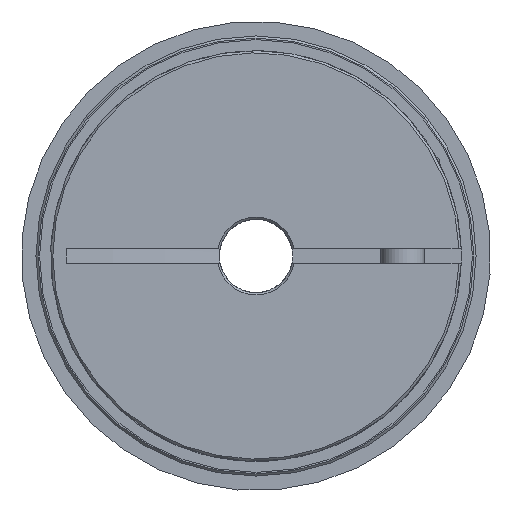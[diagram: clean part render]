
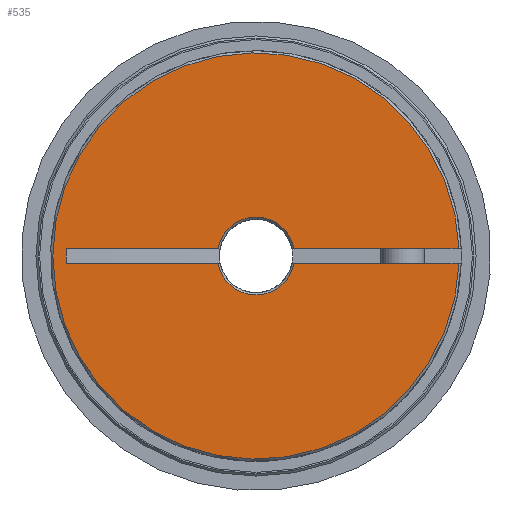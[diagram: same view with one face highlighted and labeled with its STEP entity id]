
A CAD part, left-side view. The second image highlights one B-rep face of the part: STEP entity #535.
In plain terms, the highlighted planar face has unit normal (-1, 0, 0) as drawn and (0, 0, 1) by its records, which use the part's own axes.
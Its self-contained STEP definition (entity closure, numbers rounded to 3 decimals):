
#535 = ADVANCED_FACE( 'NONE', ( #1085 ), #1086, .T. );
#1085 = FACE_OUTER_BOUND( '', #1816, .T. );
#1086 = PLANE( '', #1817 );
#1816 = EDGE_LOOP( '', ( #2730, #2731, #2732, #2733, #2734, #2735, #2736, #2737 ) );
#1817 = AXIS2_PLACEMENT_3D( '', #2738, #2739, #2740 );
#2730 = ORIENTED_EDGE( '', *, *, #3898, .F. );
#2731 = ORIENTED_EDGE( '', *, *, #3806, .T. );
#2732 = ORIENTED_EDGE( '', *, *, #3757, .T. );
#2733 = ORIENTED_EDGE( '', *, *, #3899, .T. );
#2734 = ORIENTED_EDGE( '', *, *, #3900, .T. );
#2735 = ORIENTED_EDGE( '', *, *, #3844, .F. );
#2736 = ORIENTED_EDGE( '', *, *, #3802, .F. );
#2737 = ORIENTED_EDGE( '', *, *, #3834, .T. );
#2738 = CARTESIAN_POINT( '', ( 0., 0., 24.5 ) );
#2739 = DIRECTION( '', ( 0., 0., 1. ) );
#2740 = DIRECTION( '', ( 1., 0., 0. ) );
#3757 = EDGE_CURVE( 'NONE', #4295, #4296, #4297, .T. );
#3802 = EDGE_CURVE( 'NONE', #4372, #4374, #4375, .F. );
#3806 = EDGE_CURVE( 'NONE', #4380, #4295, #4381, .T. );
#3834 = EDGE_CURVE( 'NONE', #4372, #4422, #4425, .F. );
#3844 = EDGE_CURVE( 'NONE', #4374, #4438, #4439, .F. );
#3898 = EDGE_CURVE( 'NONE', #4380, #4422, #4523, .F. );
#3899 = EDGE_CURVE( 'NONE', #4296, #4524, #4525, .F. );
#3900 = EDGE_CURVE( 'NONE', #4524, #4438, #4526, .T. );
#4295 = VERTEX_POINT( 'NONE', #5029 );
#4296 = VERTEX_POINT( 'NONE', #5030 );
#4297 = LINE( '', #5031, #5032 );
#4372 = VERTEX_POINT( 'NONE', #5284 );
#4374 = VERTEX_POINT( 'NONE', #5289 );
#4375 = LINE( '', #5290, #5291 );
#4380 = VERTEX_POINT( 'NONE', #5296 );
#4381 = CIRCLE( '', #5297, 27.7 );
#4422 = VERTEX_POINT( 'NONE', #5344 );
#4425 = CIRCLE( '', #5350, 5.3 );
#4438 = VERTEX_POINT( 'NONE', #5367 );
#4439 = LINE( '', #5368, #5369 );
#4523 = LINE( '', #5469, #5470 );
#4524 = VERTEX_POINT( 'NONE', #5471 );
#4525 = CIRCLE( '', #5472, 5.3 );
#4526 = LINE( '', #5473, #5474 );
#5029 = CARTESIAN_POINT( '', ( 27.682, -1., 24.5 ) );
#5030 = CARTESIAN_POINT( '', ( 5.205, -1., 24.5 ) );
#5031 = CARTESIAN_POINT( '', ( 0., -1., 24.5 ) );
#5032 = VECTOR( '', #6332, 1000. );
#5284 = CARTESIAN_POINT( '', ( -5.205, 1., 24.5 ) );
#5289 = CARTESIAN_POINT( '', ( -25.849, 1., 24.5 ) );
#5290 = CARTESIAN_POINT( '', ( 17., 1., 24.5 ) );
#5291 = VECTOR( '', #6387, 1000. );
#5296 = CARTESIAN_POINT( '', ( 27.682, 1., 24.5 ) );
#5297 = AXIS2_PLACEMENT_3D( '', #6394, #6395, #6396 );
#5344 = CARTESIAN_POINT( '', ( 5.205, 1., 24.5 ) );
#5350 = AXIS2_PLACEMENT_3D( '', #6439, #6440, #6441 );
#5367 = CARTESIAN_POINT( '', ( -25.849, -1., 24.5 ) );
#5368 = CARTESIAN_POINT( '', ( -25.849, -1., 24.5 ) );
#5369 = VECTOR( '', #6452, 1000. );
#5469 = CARTESIAN_POINT( '', ( 17., 1., 24.5 ) );
#5470 = VECTOR( '', #6535, 1000. );
#5471 = CARTESIAN_POINT( '', ( -5.205, -1., 24.5 ) );
#5472 = AXIS2_PLACEMENT_3D( '', #6536, #6537, #6538 );
#5473 = CARTESIAN_POINT( '', ( 0., -1., 24.5 ) );
#5474 = VECTOR( '', #6539, 1000. );
#6332 = DIRECTION( '', ( -1., 0., 0. ) );
#6387 = DIRECTION( '', ( 1., 0., 0. ) );
#6394 = CARTESIAN_POINT( '', ( 0., 0., 24.5 ) );
#6395 = DIRECTION( '', ( 0., 0., 1. ) );
#6396 = DIRECTION( '', ( 1., 0., 0. ) );
#6439 = CARTESIAN_POINT( '', ( 0., 0., 24.5 ) );
#6440 = DIRECTION( '', ( 0., 0., 1. ) );
#6441 = DIRECTION( '', ( 1., 0., 0. ) );
#6452 = DIRECTION( '', ( 0., 1., 0. ) );
#6535 = DIRECTION( '', ( 1., 0., 0. ) );
#6536 = CARTESIAN_POINT( '', ( 0., 0., 24.5 ) );
#6537 = DIRECTION( '', ( 0., 0., 1. ) );
#6538 = DIRECTION( '', ( 1., 0., 0. ) );
#6539 = DIRECTION( '', ( -1., 0., 0. ) );
